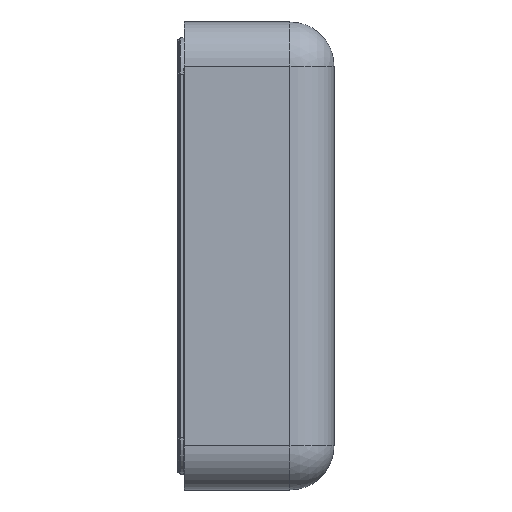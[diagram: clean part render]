
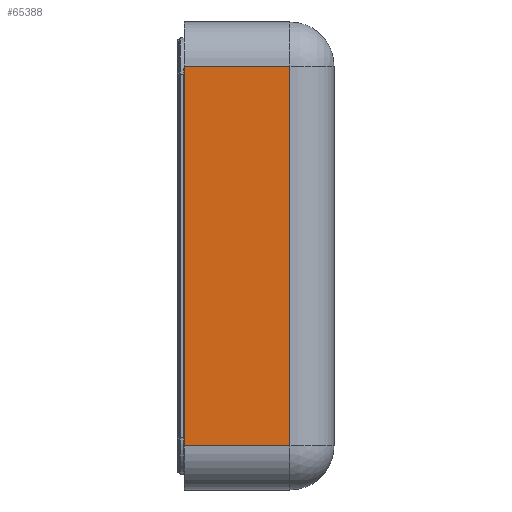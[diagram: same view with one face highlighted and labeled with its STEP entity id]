
A CAD part, left-side view. The second image highlights one B-rep face of the part: STEP entity #65388.
In plain terms, the highlighted planar face has unit normal (-1, 0, 0).
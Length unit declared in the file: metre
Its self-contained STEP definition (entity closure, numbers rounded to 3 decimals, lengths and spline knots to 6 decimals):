
#1364 = PLANE ( 'NONE',  #9051 ) ;
#3696 = VECTOR ( 'NONE', #7153, 1. ) ;
#6115 = VERTEX_POINT ( 'NONE', #59581 ) ;
#7153 = DIRECTION ( 'NONE',  ( 0., 1., 0. ) ) ;
#8401 = VECTOR ( 'NONE', #39490, 1. ) ;
#9051 = AXIS2_PLACEMENT_3D ( 'NONE', #43147, #59705, #22434 ) ;
#10418 = VERTEX_POINT ( 'NONE', #46372 ) ;
#11881 = EDGE_CURVE ( 'NONE', #6115, #10418, #25989, .T. ) ;
#12821 = ORIENTED_EDGE ( 'NONE', *, *, #55258, .T. ) ;
#17182 = CARTESIAN_POINT ( 'NONE',  ( -0.182236, 0., 0.109347 ) ) ;
#17616 = VERTEX_POINT ( 'NONE', #63469 ) ;
#18273 = ORIENTED_EDGE ( 'NONE', *, *, #11881, .T. ) ;
#19703 = LINE ( 'NONE', #61816, #68280 ) ;
#21300 = DIRECTION ( 'NONE',  ( 0., 0., 1. ) ) ;
#22434 = DIRECTION ( 'NONE',  ( 0., 0., 1. ) ) ;
#25989 = LINE ( 'NONE', #47052, #27771 ) ;
#27771 = VECTOR ( 'NONE', #68114, 1. ) ;
#39490 = DIRECTION ( 'NONE',  ( 0., 0., 1. ) ) ;
#42608 = EDGE_CURVE ( 'NONE', #6115, #47883, #45004, .T. ) ;
#43147 = CARTESIAN_POINT ( 'NONE',  ( -0.182236, -0.08636, -0.134747 ) ) ;
#45004 = LINE ( 'NONE', #55703, #8401 ) ;
#46372 = CARTESIAN_POINT ( 'NONE',  ( -0.182236, -0.06096, -0.109347 ) ) ;
#47052 = CARTESIAN_POINT ( 'NONE',  ( -0.182236, -0.08636, -0.109347 ) ) ;
#47883 = VERTEX_POINT ( 'NONE', #17182 ) ;
#48994 = EDGE_LOOP ( 'NONE', ( #18273, #12821, #64404, #66721 ) ) ;
#53094 = LINE ( 'NONE', #54131, #3696 ) ;
#53850 = FACE_OUTER_BOUND ( 'NONE', #48994, .T. ) ;
#54131 = CARTESIAN_POINT ( 'NONE',  ( -0.182236, -0.08636, 0.109347 ) ) ;
#55258 = EDGE_CURVE ( 'NONE', #10418, #17616, #19703, .T. ) ;
#55703 = CARTESIAN_POINT ( 'NONE',  ( -0.182236, 0., -0.134747 ) ) ;
#59581 = CARTESIAN_POINT ( 'NONE',  ( -0.182236, 0., -0.109347 ) ) ;
#59705 = DIRECTION ( 'NONE',  ( -1., 0., 0. ) ) ;
#61816 = CARTESIAN_POINT ( 'NONE',  ( -0.182236, -0.06096, 0.109347 ) ) ;
#63469 = CARTESIAN_POINT ( 'NONE',  ( -0.182236, -0.06096, 0.109347 ) ) ;
#64404 = ORIENTED_EDGE ( 'NONE', *, *, #68178, .T. ) ;
#65388 = ADVANCED_FACE ( 'NONE', ( #53850 ), #1364, .T. ) ;
#66721 = ORIENTED_EDGE ( 'NONE', *, *, #42608, .F. ) ;
#68114 = DIRECTION ( 'NONE',  ( 0., -1., 0. ) ) ;
#68178 = EDGE_CURVE ( 'NONE', #17616, #47883, #53094, .T. ) ;
#68280 = VECTOR ( 'NONE', #21300, 1. ) ;
